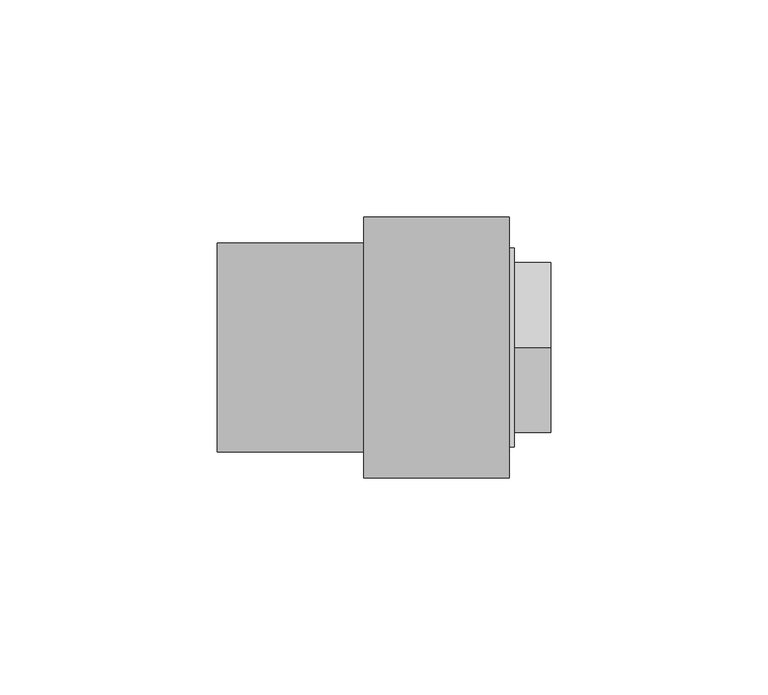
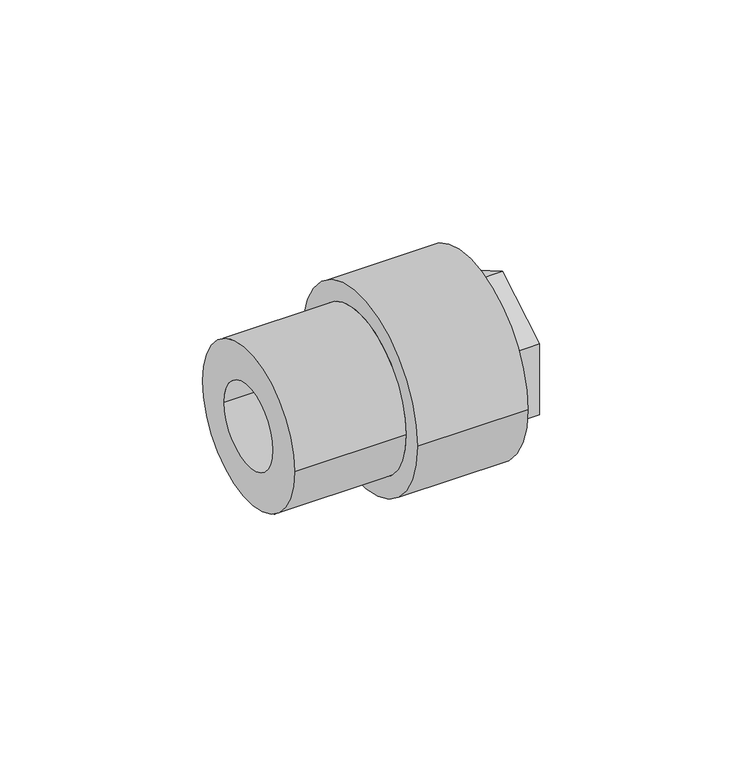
"""IFC4 building model written with IfcOpenShell, lengths in millimetres: pipe fitting geometry, Aquatherm - Fusion Outlet Transition Female : POTABLE BRASS - HEX."""

from ifc_helpers import new_model, si_unit, frame, origin, place, context, project, spatial, polyline, circle_curve, source, transform, mapped, element, save
from ifc_brep_helpers import plane_surface, cylinder_surface, revolved_surface, advanced_brep


def pipe_fitting_59b1c03a(model_context):
    return source(origin(), model_context, "Body", "AdvancedBrep", [
        advanced_brep(
        [(25.4635, 15.875, 0.0), (25.4635, -15.875, 0.0), (40.3463125, -15.875, 0.0), (40.3463125, 15.875, 0.0), (25.4635, 16.66875, 0.0), (25.4635, -16.66875, 0.0), (22.2885, 16.66875, 0.0), (22.2885, -16.66875, 0.0), (22.2885, 12.7, 0.0), (22.2885, -12.7, 0.0), (19.1135, 12.7, 0.0), (19.1135, -12.7, 0.0), (19.1135, 24.003, 0.0), (19.1135, -24.003, 0.0), (33.401, 24.003, 0.0), (33.401, -24.003, 0.0), (42.926, 16.66875, 0.0), (42.926, -16.66875, 0.0), (42.926, -19.558, 0.0), (42.926, -19.558, -11.2918166), (42.926, 0.0, -22.5836331), (42.926, 19.558, -11.2918166), (42.926, 19.558, 0.0), (42.926, 19.558, 11.2918166), (42.926, 0.0, 22.5836331), (42.926, -19.558, 11.2918166), (33.401, 22.86, 0.0), (33.401, -22.86, 0.0), (34.591625, 22.86, 0.0), (34.591625, -22.86, 0.0), (34.591625, 0.0, -22.5836331), (34.591625, -19.558, -11.2918166), (34.591625, -19.558, 11.2918166), (34.591625, 0.0, 22.5836331), (34.591625, 19.558, 11.2918166), (34.591625, 19.558, -11.2918166)],
        [
            (0, 1, circle_curve(frame((25.4635, 0.0, 0.0), z_axis=(-1.0, 0.0, 0.0), x_axis=(0.0, -1.0, 0.0)), 15.875)),
            (1, 2),
            (2, 3, circle_curve(frame((40.3463125, 0.0, 0.0), z_axis=(1.0, 0.0, 0.0), x_axis=(0.0, -1.0, 0.0)), 15.875)),
            (3, 0),
            (1, 0, circle_curve(frame((25.4635, 0.0, 0.0), z_axis=(-1.0, 0.0, 0.0), x_axis=(0.0, -1.0, 0.0)), 15.875)),
            (3, 2, circle_curve(frame((40.3463125, 0.0, 0.0), z_axis=(1.0, 0.0, 0.0), x_axis=(0.0, -1.0, 0.0)), 15.875)),
            (0, 4),
            (4, 5, circle_curve(frame((25.4635, 0.0, 0.0), z_axis=(-1.0, 0.0, 0.0), x_axis=(0.0, -1.0, 0.0)), 16.66875)),
            (5, 1),
            (5, 4, circle_curve(frame((25.4635, 0.0, 0.0), z_axis=(-1.0, 0.0, 0.0), x_axis=(0.0, -1.0, 0.0)), 16.66875)),
            (4, 6),
            (6, 7, circle_curve(frame((22.2885, 0.0, 0.0), z_axis=(-1.0, 0.0, 0.0), x_axis=(0.0, -1.0, 0.0)), 16.66875)),
            (7, 5),
            (7, 6, circle_curve(frame((22.2885, 0.0, 0.0), z_axis=(-1.0, 0.0, 0.0), x_axis=(0.0, -1.0, 0.0)), 16.66875)),
            (6, 8),
            (8, 9, circle_curve(frame((22.2885, 0.0, 0.0), z_axis=(-1.0, 0.0, 0.0), x_axis=(0.0, -1.0, 0.0)), 12.7)),
            (9, 7),
            (9, 8, circle_curve(frame((22.2885, 0.0, 0.0), z_axis=(-1.0, 0.0, 0.0), x_axis=(0.0, -1.0, 0.0)), 12.7)),
            (8, 10),
            (10, 11, circle_curve(frame((19.1135, 0.0, 0.0), z_axis=(-1.0, 0.0, 0.0), x_axis=(0.0, -1.0, 0.0)), 12.7)),
            (11, 9),
            (11, 10, circle_curve(frame((19.1135, 0.0, 0.0), z_axis=(-1.0, 0.0, 0.0), x_axis=(0.0, -1.0, 0.0)), 12.7)),
            (10, 12),
            (12, 13, circle_curve(frame((19.1135, 0.0, 0.0), z_axis=(-1.0, 0.0, 0.0), x_axis=(0.0, -1.0, 0.0)), 24.003)),
            (13, 11),
            (13, 12, circle_curve(frame((19.1135, 0.0, 0.0), z_axis=(-1.0, 0.0, 0.0), x_axis=(0.0, -1.0, 0.0)), 24.003)),
            (12, 14),
            (14, 15, circle_curve(frame((33.401, 0.0, 0.0), z_axis=(-1.0, 0.0, 0.0), x_axis=(0.0, -1.0, 0.0)), 24.003)),
            (15, 13),
            (15, 14, circle_curve(frame((33.401, 0.0, 0.0), z_axis=(-1.0, 0.0, 0.0), x_axis=(0.0, -1.0, 0.0)), 24.003)),
            (16, 17, circle_curve(frame((42.926, 0.0, 0.0), z_axis=(-1.0, 0.0, 0.0), x_axis=(0.0, -1.0, 0.0)), 16.66875)),
            (17, 18),
            (18, 19),
            (19, 20),
            (20, 21),
            (21, 22),
            (22, 16),
            (17, 16, circle_curve(frame((42.926, 0.0, 0.0), z_axis=(-1.0, 0.0, 0.0), x_axis=(0.0, -1.0, 0.0)), 16.66875)),
            (22, 23),
            (23, 24),
            (24, 25),
            (25, 18),
            (2, 17),
            (16, 3),
            (14, 26),
            (26, 27, circle_curve(frame((33.401, 0.0, 0.0), z_axis=(-1.0, 0.0, 0.0), x_axis=(0.0, -1.0, 0.0)), 22.86)),
            (27, 15),
            (27, 26, circle_curve(frame((33.401, 0.0, 0.0), z_axis=(-1.0, 0.0, 0.0), x_axis=(0.0, -1.0, 0.0)), 22.86)),
            (26, 28),
            (28, 29, circle_curve(frame((34.591625, 0.0, 0.0), z_axis=(-1.0, 0.0, 0.0), x_axis=(0.0, -1.0, 0.0)), 22.86)),
            (29, 27),
            (29, 28, circle_curve(frame((34.591625, 0.0, 0.0), z_axis=(-1.0, 0.0, 0.0), x_axis=(0.0, -1.0, 0.0)), 22.86)),
            (30, 31),
            (31, 32),
            (32, 33),
            (33, 34),
            (34, 35),
            (35, 30),
            (35, 21),
            (20, 30),
            (34, 23),
            (33, 24),
            (32, 25),
            (31, 19),
        ],
        [
            revolved_surface(polyline([(40.3463125, -15.875, 0.0), (25.4635, -15.875, 0.0)]), (44.7592251, 0.0, 0.0), (1.0, 0.0, 0.0)),
            plane_surface(frame((25.4635, 0.0, 0.0), z_axis=(-1.0, 0.0, 0.0), x_axis=(0.0, -1.0, 0.0))),
            revolved_surface(polyline([(25.4635, -16.66875, 0.0), (22.2885, -16.66875, 0.0)]), (44.7592251, 0.0, 0.0), (1.0, 0.0, 0.0)),
            plane_surface(frame((22.2885, 0.0, 0.0), z_axis=(1.0, 0.0, 0.0), x_axis=(0.0, -1.0, 0.0))),
            revolved_surface(polyline([(22.2885, -12.7, 0.0), (19.1135, -12.7, 0.0)]), (44.7592251, 0.0, 0.0), (1.0, 0.0, 0.0)),
            plane_surface(frame((19.1135, 0.0, 0.0), z_axis=(-1.0, 0.0, 0.0), x_axis=(0.0, -1.0, 0.0))),
            cylinder_surface(frame((44.7592251, 0.0, 0.0), z_axis=(1.0, 0.0, 0.0), x_axis=(0.0, -1.0, 0.0)), 24.003),
            plane_surface(frame((42.926, 0.0, 0.0), z_axis=(1.0, 0.0, 0.0), x_axis=(0.0, -1.0, 0.0))),
            revolved_surface(polyline([(42.926, -16.66875, 0.0), (40.3463125, -15.875, 0.0)]), (44.7592251, 0.0, 0.0), (1.0, 0.0, 0.0)),
            plane_surface(frame((33.401, 0.0, 0.0), z_axis=(1.0, 0.0, 0.0), x_axis=(0.0, -1.0, 0.0))),
            cylinder_surface(frame((44.7592251, 0.0, 0.0), z_axis=(1.0, 0.0, 0.0), x_axis=(0.0, -1.0, 0.0)), 22.86),
            plane_surface(frame((34.591625, 19.558, -11.2918166), z_axis=(1.0000000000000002, 0.0, 0.0), x_axis=(0.0, 0.8660254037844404, 0.4999999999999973))),
            plane_surface(frame((34.591625, 0.0, -22.5836331), z_axis=(0.0, 0.4999999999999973, -0.8660254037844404), x_axis=(1.0, 0.0, 0.0))),
            plane_surface(frame((34.591625, 19.558, -11.2918166), z_axis=(0.0, 1.0, 0.0), x_axis=(1.0, 0.0, 0.0))),
            plane_surface(frame((34.591625, 19.558, 11.2918166), z_axis=(0.0, 0.5000000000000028, 0.8660254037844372), x_axis=(1.0, 0.0, 0.0))),
            plane_surface(frame((34.591625, 0.0, 22.5836331), z_axis=(0.0, -0.49999999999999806, 0.8660254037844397), x_axis=(1.0, 0.0, 0.0))),
            plane_surface(frame((34.591625, -19.558, 11.2918166), z_axis=(0.0, -1.0, 0.0), x_axis=(1.0, 0.0, 0.0))),
            plane_surface(frame((34.591625, -19.558, -11.2918166), z_axis=(0.0, -0.5000000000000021, -0.8660254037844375), x_axis=(1.0, 0.0, 0.0))),
        ],
        [
            (0, [[1, 2, 3, 4]]),
            (0, [[-2, 5, -4, 6]]),
            (1, [[-1, 7, 8, 9]]),
            (1, [[-5, -9, 10, -7]]),
            (2, [[-8, 11, 12, 13]]),
            (2, [[-10, -13, 14, -11]]),
            (3, [[-12, 15, 16, 17]]),
            (3, [[-14, -17, 18, -15]]),
            (4, [[-16, 19, 20, 21]]),
            (4, [[-18, -21, 22, -19]]),
            (5, [[-20, 23, 24, 25]]),
            (5, [[-22, -25, 26, -23]]),
            (6, [[-24, 27, 28, 29]]),
            (6, [[-26, -29, 30, -27]]),
            (7, [[31, 32, 33, 34, 35, 36, 37]]),
            (7, [[38, -37, 39, 40, 41, 42, -32]]),
            (8, [[-3, 43, -31, 44]]),
            (8, [[-6, -44, -38, -43]]),
            (9, [[-28, 45, 46, 47]]),
            (9, [[-30, -47, 48, -45]]),
            (10, [[-46, 49, 50, 51]]),
            (10, [[-48, -51, 52, -49]]),
            (11, [[-50, -52], [53, 54, 55, 56, 57, 58]]),
            (12, [[-58, 59, -35, 60]]),
            (13, [[-57, 61, -39, -36, -59]]),
            (14, [[-56, 62, -40, -61]]),
            (15, [[-55, 63, -41, -62]]),
            (16, [[-54, 64, -33, -42, -63]]),
            (17, [[-53, -60, -34, -64]]),
        ],
    ),
        advanced_brep(
        [(-33.7064865, 24.003, 0.0), (-33.7064865, -24.003, 0.0), (-33.7064865, 12.7, 0.0), (-33.7064865, -12.7, 0.0), (19.1135, 24.003, 0.0), (19.1135, -24.003, 0.0), (19.1135, 12.7, 0.0), (19.1135, -12.7, 0.0), (0.0, 24.003, 0.0), (0.0, -24.003, 0.0), (33.401, 29.972, 0.0), (33.401, -29.972, 0.0), (33.401, 24.003, 0.0), (33.401, -24.003, 0.0), (0.0, 29.972, 0.0), (0.0, -29.972, 0.0)],
        [
            (0, 1, circle_curve(frame((-33.7064865, 0.0, 0.0), z_axis=(-1.0, 0.0, 0.0), x_axis=(0.0, -1.0, 0.0)), 24.003)),
            (1, 0, circle_curve(frame((-33.7064865, 0.0, 0.0), z_axis=(-1.0, 0.0, 0.0), x_axis=(0.0, -1.0, 0.0)), 24.003)),
            (2, 3, circle_curve(frame((-33.7064865, 0.0, 0.0), z_axis=(1.0, 0.0, 0.0), x_axis=(0.0, -1.0, 0.0)), 12.7)),
            (3, 2, circle_curve(frame((-33.7064865, 0.0, 0.0), z_axis=(1.0, 0.0, 0.0), x_axis=(0.0, -1.0, 0.0)), 12.7)),
            (4, 5, circle_curve(frame((19.1135, 0.0, 0.0), z_axis=(1.0, 0.0, 0.0), x_axis=(0.0, -1.0, 0.0)), 24.003)),
            (5, 4, circle_curve(frame((19.1135, 0.0, 0.0), z_axis=(1.0, 0.0, 0.0), x_axis=(0.0, -1.0, 0.0)), 24.003)),
            (6, 7, circle_curve(frame((19.1135, 0.0, 0.0), z_axis=(-1.0, 0.0, 0.0), x_axis=(0.0, -1.0, 0.0)), 12.7)),
            (7, 6, circle_curve(frame((19.1135, 0.0, 0.0), z_axis=(-1.0, 0.0, 0.0), x_axis=(0.0, -1.0, 0.0)), 12.7)),
            (2, 6),
            (7, 3),
            (0, 8),
            (8, 9, circle_curve(frame((0.0, 0.0, 0.0), z_axis=(-1.0, 0.0, 0.0), x_axis=(0.0, -1.0, 0.0)), 24.003)),
            (9, 1),
            (9, 8, circle_curve(frame((0.0, 0.0, 0.0), z_axis=(-1.0, 0.0, 0.0), x_axis=(0.0, -1.0, 0.0)), 24.003)),
            (10, 11, circle_curve(frame((33.401, 0.0, 0.0), z_axis=(1.0, 0.0, 0.0), x_axis=(0.0, -1.0, 0.0)), 29.972)),
            (11, 10, circle_curve(frame((33.401, 0.0, 0.0), z_axis=(1.0, 0.0, 0.0), x_axis=(0.0, -1.0, 0.0)), 29.972)),
            (12, 13, circle_curve(frame((33.401, 0.0, 0.0), z_axis=(-1.0, 0.0, 0.0), x_axis=(0.0, -1.0, 0.0)), 24.003)),
            (13, 12, circle_curve(frame((33.401, 0.0, 0.0), z_axis=(-1.0, 0.0, 0.0), x_axis=(0.0, -1.0, 0.0)), 24.003)),
            (14, 15, circle_curve(frame((0.0, 0.0, 0.0), z_axis=(-1.0, 0.0, 0.0), x_axis=(0.0, -1.0, 0.0)), 29.972)),
            (15, 14, circle_curve(frame((0.0, 0.0, 0.0), z_axis=(-1.0, 0.0, 0.0), x_axis=(0.0, -1.0, 0.0)), 29.972)),
            (13, 5),
            (4, 12),
            (11, 15),
            (14, 10),
        ],
        [
            plane_surface(frame((-33.7064865, -12.7, 0.0), z_axis=(-1.0, 0.0, 0.0), x_axis=(0.0, 0.0, -1.0))),
            plane_surface(frame((19.1135, -12.7, 0.0), z_axis=(1.0, 0.0, 0.0), x_axis=(0.0, 0.0, 1.0))),
            revolved_surface(polyline([(19.1135, -12.7, 0.0), (-33.7064865, -12.7, 0.0)]), (19.1135, 0.0, 0.0), (1.0, 0.0, 0.0)),
            cylinder_surface(frame((0.0, 0.0, 0.0), z_axis=(-1.0, 0.0, 0.0), x_axis=(0.0, -1.0, 0.0)), 24.003),
            plane_surface(frame((33.401, -24.003, 0.0), z_axis=(1.0, 0.0, 0.0), x_axis=(0.0, 0.0, 1.0))),
            plane_surface(frame((0.0, -24.003, 0.0), z_axis=(-1.0, 0.0, 0.0), x_axis=(0.0, 0.0, -1.0))),
            revolved_surface(polyline([(33.401, -24.003, 0.0), (19.1135, -24.003, 0.0)]), (33.401, 0.0, 0.0), (1.0, 0.0, 0.0)),
            cylinder_surface(frame((0.0, 0.0, 0.0), z_axis=(-1.0, 0.0, 0.0), x_axis=(0.0, -1.0, 0.0)), 29.972),
        ],
        [
            (0, [[1, 2], [3, 4]]),
            (1, [[5, 6], [7, 8]]),
            (2, [[-3, 9, -8, 10]]),
            (2, [[-4, -10, -7, -9]]),
            (3, [[-1, 11, 12, 13]]),
            (3, [[-2, -13, 14, -11]]),
            (4, [[15, 16], [17, 18]]),
            (5, [[19, 20], [-12, -14]]),
            (6, [[-18, 21, -5, 22]]),
            (6, [[-17, -22, -6, -21]]),
            (7, [[-16, 23, -19, 24]]),
            (7, [[-15, -24, -20, -23]]),
        ],
    ),
    ])


if __name__ == "__main__":
    model = new_model("IFC4")
    model_context = context("Model", 3, world=origin())
    ifc_project = project(units=[si_unit("LENGTHUNIT", "METRE", prefix="MILLI")], contexts=[model_context])
    site = spatial("IfcSite", under=ifc_project)
    building = spatial("IfcBuilding", under=site)
    placement = place(None, origin())
    pipe_fitting_shape = pipe_fitting_59b1c03a(model_context)
    element("IfcPipeFitting", 1, ObjectType="Aquatherm - Fusion Outlet Transition Female : POTABLE BRASS - HEX", at=placement, inside=building, context=model_context, shape_type="MappedRepresentation", body=[
        mapped(pipe_fitting_shape, transform((0.0, 0.0, 0.0), x_axis=(1.0, 0.0, 0.0), y_axis=(0.0, 1.0, 0.0), z_axis=(0.0, 0.0, 1.0))),
    ])
    save(model, "model.ifc")
